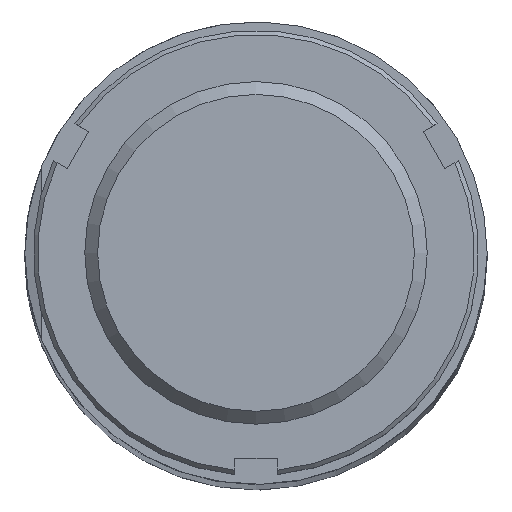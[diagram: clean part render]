
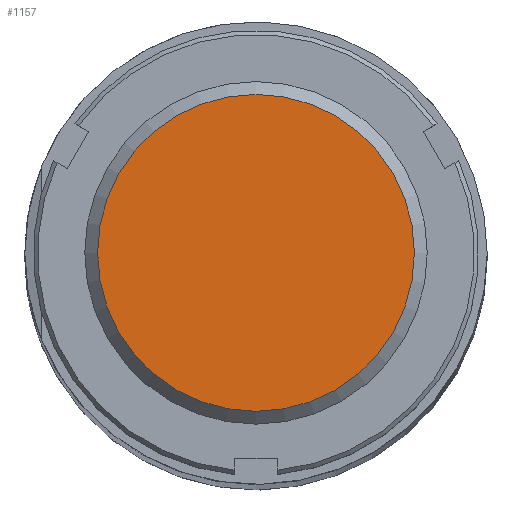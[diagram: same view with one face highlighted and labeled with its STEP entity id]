
A CAD part, top view. The second image highlights one B-rep face of the part: STEP entity #1157.
In plain terms, the highlighted planar face has unit normal (0, 0, 1) as drawn and (-1, 0, 0) by its records, which use the part's own axes.
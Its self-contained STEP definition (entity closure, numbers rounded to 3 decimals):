
#234=PLANE('',#1301);
#348=FACE_OUTER_BOUND('',#465,.T.);
#465=EDGE_LOOP('',(#966));
#534=CIRCLE('',#1300,18.5);
#617=VERTEX_POINT('',#1953);
#740=EDGE_CURVE('',#617,#617,#534,.T.);
#966=ORIENTED_EDGE('',*,*,#740,.T.);
#1157=ADVANCED_FACE('',(#348),#234,.T.);
#1300=AXIS2_PLACEMENT_3D('',#1954,#1584,#1585);
#1301=AXIS2_PLACEMENT_3D('',#1955,#1586,#1587);
#1584=DIRECTION('center_axis',(-1.,0.,0.));
#1585=DIRECTION('ref_axis',(0.,0.,1.));
#1586=DIRECTION('center_axis',(-1.,0.,0.));
#1587=DIRECTION('ref_axis',(0.,0.,1.));
#1953=CARTESIAN_POINT('',(-38.,0.,18.5));
#1954=CARTESIAN_POINT('Origin',(-38.,0.,0.));
#1955=CARTESIAN_POINT('Origin',(-38.,0.,0.));
